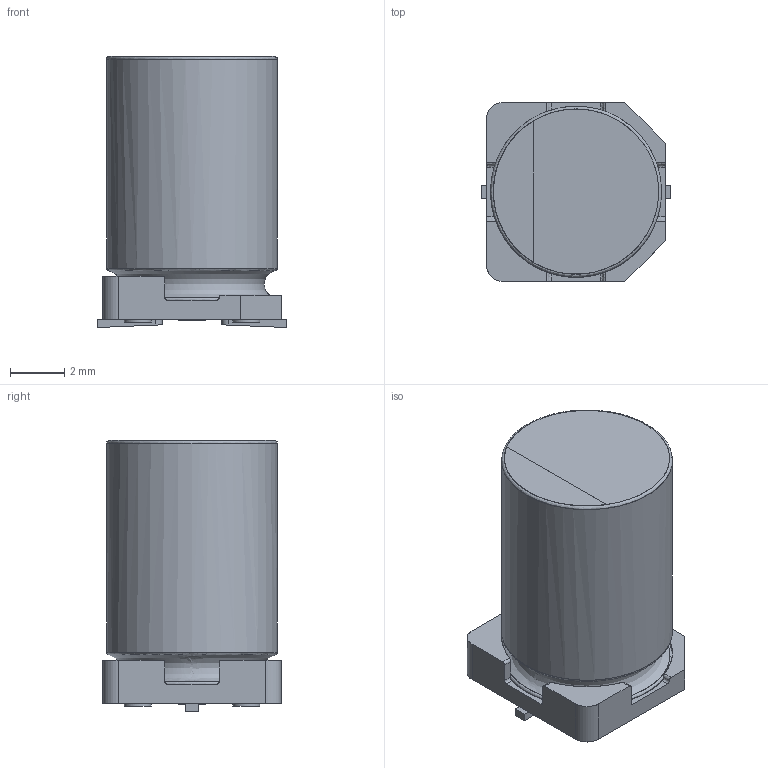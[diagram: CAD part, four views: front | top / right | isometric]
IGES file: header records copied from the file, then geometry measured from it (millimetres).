
Start section: JAMA-IS VERSION  1.0
Bounding box: 7 x 6.6 x 10 mm (x, y, z)
Surface area: 382.6 mm2 (no closed solid volume)
Topology: 0 solids, 0 shells, 74 faces, 994 edges, 976 vertices
Faces by surface type: bspline 74
